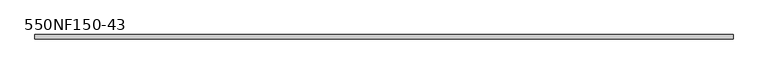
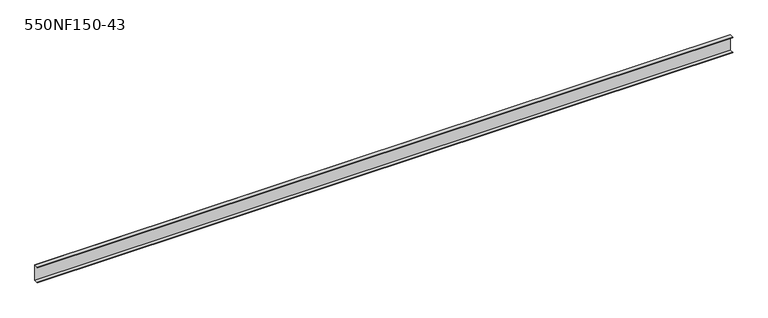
"""IFC4 building model written with IfcOpenShell, lengths in millimetres: beam geometry, BIMSF-SSMA-S : 550NF150-43."""

from ifc_helpers import new_model, si_unit, frame, origin, place, context, project, spatial, polyline, outline, extrude, source, transform, mapped, element, save


def beam_550nf150_43_92e15598(model_context):
    return source(origin(), model_context, "Body", "SweptSolid", [
        extrude(outline(polyline([(19.05, 69.85), (19.05, -69.85), (-19.05, -69.85), (-19.05, -65.0748), (-17.9003158, -65.0748), (-17.9003158, -68.7003158), (17.9003158, -68.7003158), (17.9003158, 68.7003158), (-17.9003158, 68.7003158), (-17.9003158, 65.0748), (-19.05, 65.0748), (-19.05, 69.85), (19.05, 69.85)])), frame((-2978.8197218, 0.0, 0.0), z_axis=(1.0, 0.0, 0.0), x_axis=(0.0, 1.0, 0.0)), (0.0, 0.0, 1.0), 5957.6394436),
    ])


if __name__ == "__main__":
    model = new_model("IFC4")
    model_context = context("Model", 3, world=origin())
    ifc_project = project(units=[si_unit("LENGTHUNIT", "METRE", prefix="MILLI")], contexts=[model_context])
    site = spatial("IfcSite", under=ifc_project)
    building = spatial("IfcBuilding", under=site)
    placement = place(None, origin())
    beam_550nf150_43_shape = beam_550nf150_43_92e15598(model_context)
    element("IfcBeam", 1, ObjectType="BIMSF-SSMA-S : 550NF150-43", at=placement, inside=building, context=model_context, shape_type="MappedRepresentation", body=[
        mapped(beam_550nf150_43_shape, transform((0.0, 0.0, 0.0), x_axis=(1.0, 0.0, 0.0), y_axis=(0.0, 1.0, 0.0), z_axis=(0.0, 0.0, 1.0))),
    ])
    save(model, "model.ifc")
